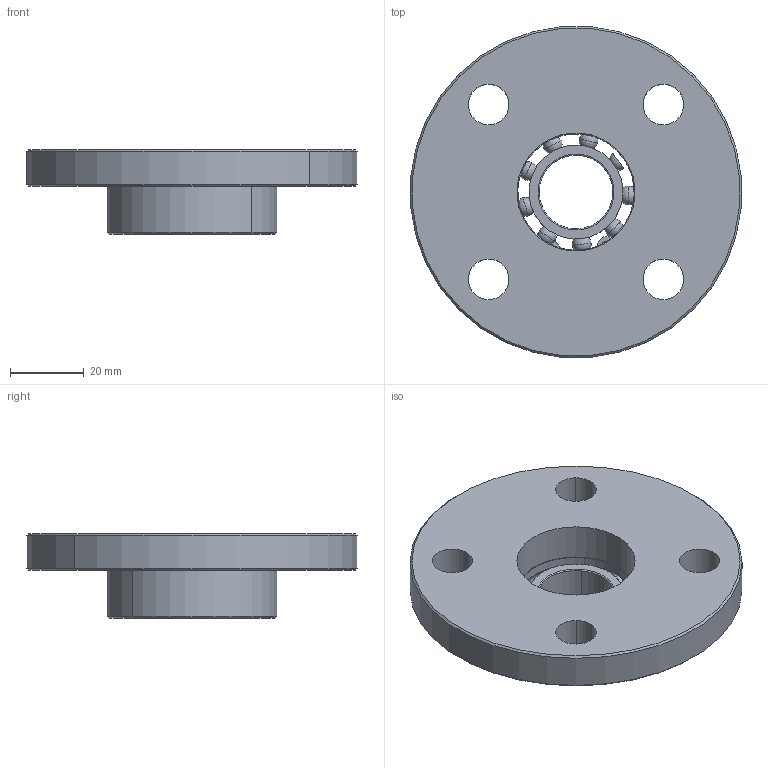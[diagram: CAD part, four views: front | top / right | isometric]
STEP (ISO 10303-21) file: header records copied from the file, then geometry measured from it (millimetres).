
FILE_DESCRIPTION (( 'STEP AP203' ), '1' );
FILE_NAME ('MJ3-EFM.STEP', '2024-01-15T15:30:39', ( '' ), ( '' ), 'SwSTEP 2.0', 'SolidWorks 2022', '' );
FILE_SCHEMA (( 'CONFIG_CONTROL_DESIGN' ));
Length unit declared in the file: millimetre
Products named in the file (1): MJ3-EFM
Bounding box: 89.66 x 89.66 x 23 mm (x, y, z)
Volume: 64081 mm3; surface area: 24910.3 mm2
Topology: 3 solids, 3 shells, 147 faces, 465 edges, 296 vertices
Faces by surface type: cylinder 44, sphere 42, torus 41, plane 14, cone 6
Entity records: 4549 total; most frequent: CARTESIAN_POINT 1225, DIRECTION 690, ORIENTED_EDGE 686, EDGE_CURVE 343, AXIS2_PLACEMENT_3D 317, VERTEX_POINT 232, CIRCLE 193, EDGE_LOOP 163
